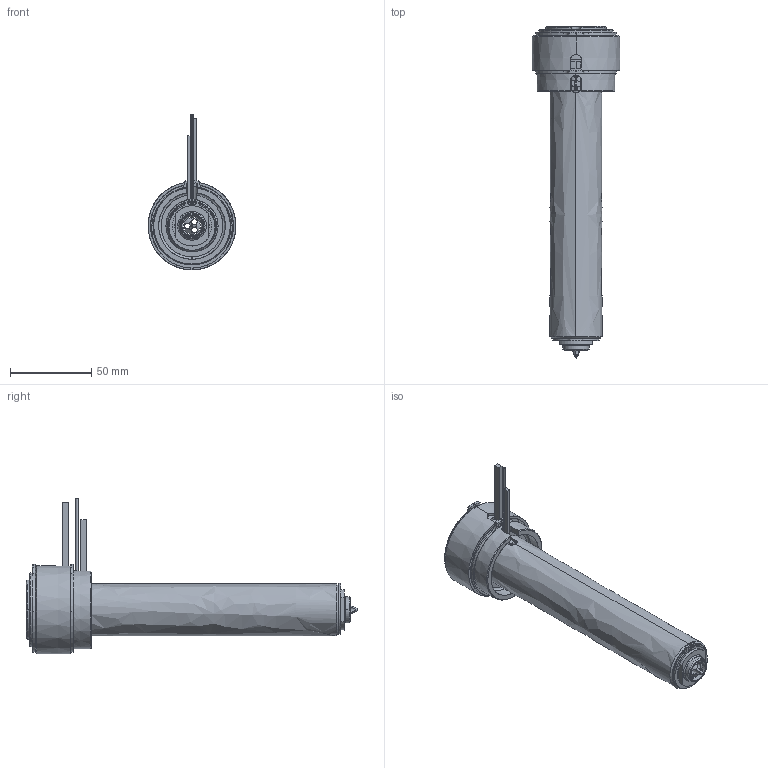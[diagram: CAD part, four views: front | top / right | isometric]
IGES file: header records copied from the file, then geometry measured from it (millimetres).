
Start section: SolidWorks IGES file using analytic representation for surfaces
Global section: file name: C:\Documents and Settings\ws-20\Desktop\TEM\UGEP5504-M-A-0 [Øf-1.18 ØC-12].IGS; native system: SolidWorks 2012; preprocessor: SolidWorks 2012; author: ws-20; date: 120427.080325; units: millimetre
Bounding box: 54 x 204.05 x 95.62 mm (x, y, z)
Surface area: 82923.2 mm2 (no closed solid volume)
Topology: 0 solids, 0 shells, 181 faces, 3607 edges, 3607 vertices
Faces by surface type: revolution 116, bspline 65
